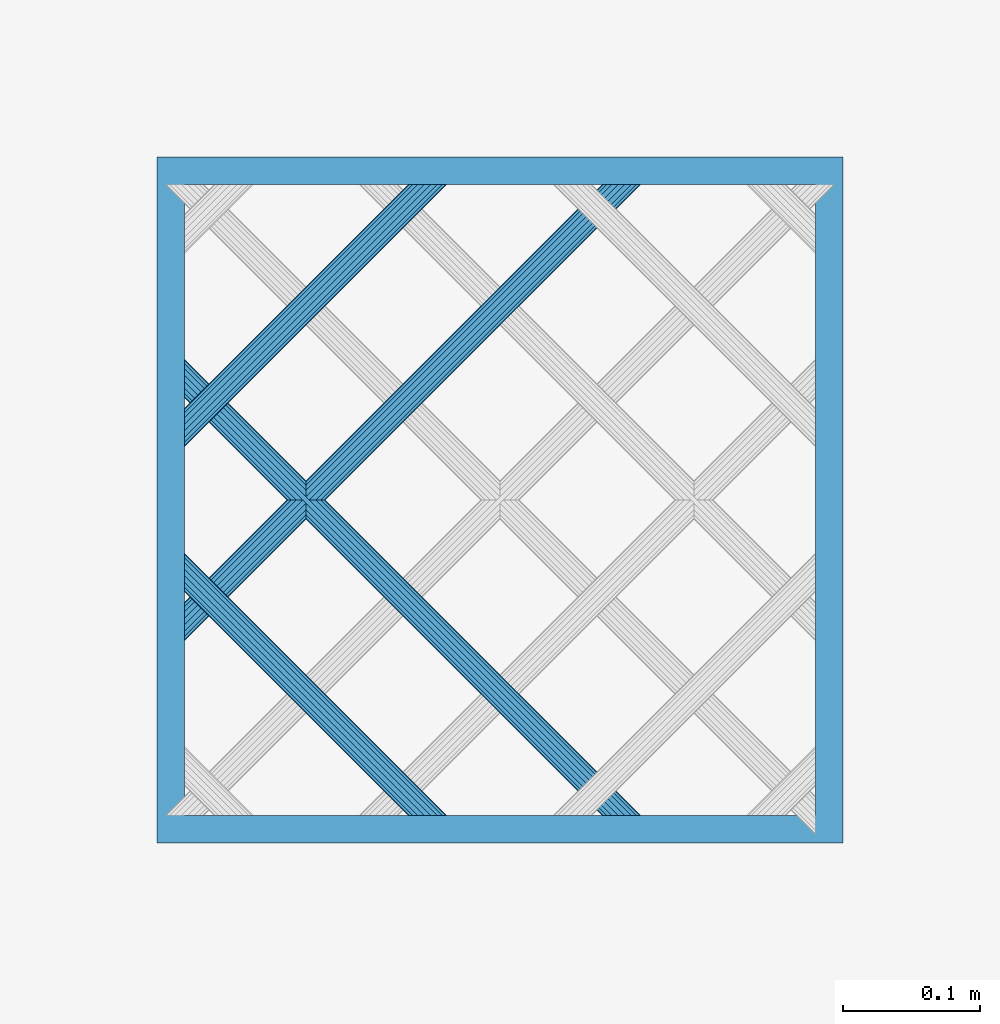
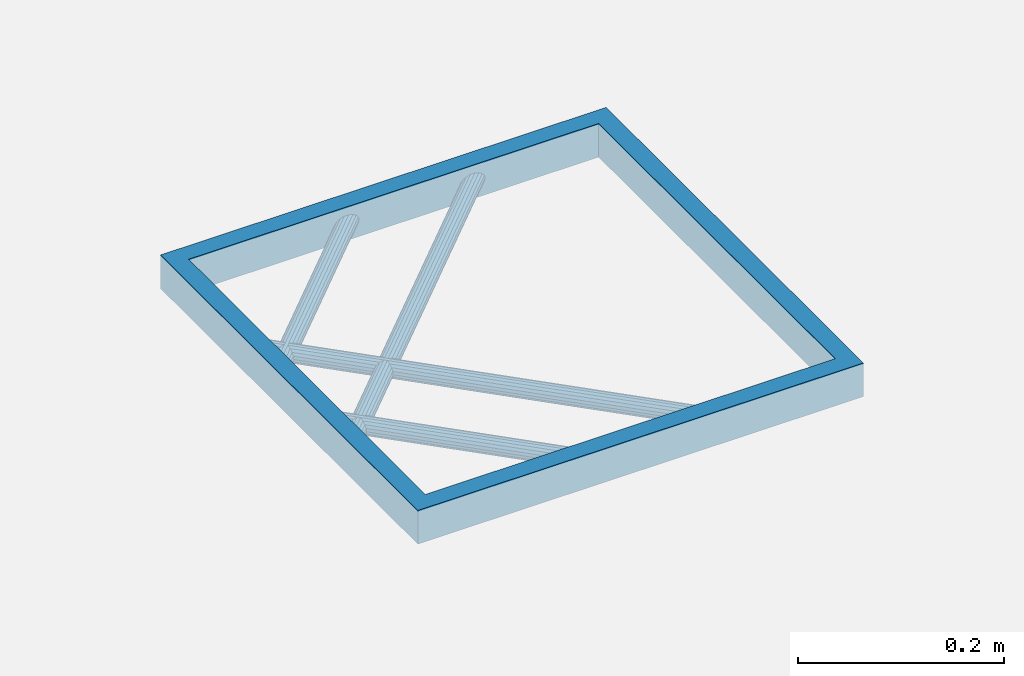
# One storey, part 80 of 133: 5 members, 1 element without a shape of its own.
"""IFC2X3 building model written with IfcOpenShell, lengths in centimetres."""

import ifcopenshell
import ifcopenshell.guid

model = None  # the IFC model being written
_history = None  # IfcOwnerHistory: only IFC2X3 demands one
_inside = {}  # id of a spatial element -> (the spatial element, [elements in it])
_under = {}  # id of a project, library or spatial element -> (it, [spatial elements below it])
_declared = {}  # id of a project -> (the project, [libraries it declares])
_typed = {}  # id of a type object -> (the type object, [elements of that type])
_made_of = {}  # id of a material, layer set ... -> (it, [elements and type objects made of it])


def new_model(schema):
    """Start an empty IFC model of exactly this schema.

    Asked for "IFC4X3", IfcOpenShell would pick the latest addendum, in which some entities
    have other attributes; the version numbers below select the first issue.
    IFC2X3 requires an IfcOwnerHistory on every rooted entity: one is made here for all.
    """
    global model, _history
    if schema == "IFC4X3":
        model = ifcopenshell.file(schema_version=(4, 3, 0, 0))
    else:
        model = ifcopenshell.file(schema=schema)
    _inside.clear()
    _under.clear()
    _declared.clear()
    _typed.clear()
    _made_of.clear()
    _history = None
    if model.schema == "IFC2X3":
        org = make("IfcOrganization", Name="unknown")
        user = make(
            "IfcPersonAndOrganization",
            ThePerson=make("IfcPerson", FamilyName="unknown"),
            TheOrganization=org,
        )
        app = make(
            "IfcApplication",
            ApplicationDeveloper=org,
            Version="unknown",
            ApplicationFullName="unknown",
            ApplicationIdentifier="unknown",
        )
        _history = make(
            "IfcOwnerHistory",
            OwningUser=user,
            OwningApplication=app,
            ChangeAction="ADDED",
            CreationDate=0,
        )
    return model


def make(cls, **values):
    """One entity of the class cls with the attributes given. An attribute that is None is left unset."""
    return model.create_entity(
        cls, **{name: value for name, value in values.items() if value is not None}
    )


def entity(cls, *values):
    """Any entity or typed value of the class cls, its attributes in the order of the schema. None: left unset."""
    e = model.create_entity(cls)
    for i, value in enumerate(values):
        if value is not None:
            e[i] = value
    return e


def rooted(cls, **values):
    """An entity with a GlobalId (a new one), such as an element, a storey or a relation."""
    return make(cls, GlobalId=ifcopenshell.guid.new(), OwnerHistory=_history, **values)


def si_unit(unit_type, name, prefix=None):
    """IfcSIUnit, for example si_unit("LENGTHUNIT", "METRE", prefix="MILLI")."""
    return make("IfcSIUnit", UnitType=unit_type, Prefix=prefix, Name=name)


def converted_unit(unit_type, name, factor, base, dimensions=None, offset=None):
    """IfcConversionBasedUnit, such as the inch: factor (a typed value) times the base unit."""
    return make(
        "IfcConversionBasedUnit"
        if offset is None
        else "IfcConversionBasedUnitWithOffset",
        ConversionOffset=offset,
        Dimensions=None
        if dimensions is None
        else entity("IfcDimensionalExponents", *dimensions),
        UnitType=unit_type,
        Name=name,
        ConversionFactor=make(
            "IfcMeasureWithUnit", ValueComponent=factor, UnitComponent=base
        ),
    )


def assignment(units):
    """IfcUnitAssignment: the units of a project."""
    return None if units is None else make("IfcUnitAssignment", Units=units)


def point(xyz):
    """IfcCartesianPoint."""
    return None if xyz is None else make("IfcCartesianPoint", Coordinates=xyz)


def direction(xyz):
    """IfcDirection."""
    return None if xyz is None else make("IfcDirection", DirectionRatios=xyz)


def frame(location, z_axis=None, x_axis=None):
    """IfcAxis2Placement3D, a coordinate frame: its origin and axes. An axis left out is left unset."""
    return make(
        "IfcAxis2Placement3D",
        Location=point(location),
        Axis=direction(z_axis),
        RefDirection=direction(x_axis),
    )


def origin():
    """The frame at (0, 0, 0) with its axes left unset."""
    return frame((0.0, 0.0, 0.0))


def origin_with_axes():
    """The frame at (0, 0, 0) with the z axis (0, 0, 1) and the x axis (1, 0, 0) written out."""
    return frame((0.0, 0.0, 0.0), z_axis=(0.0, 0.0, 1.0), x_axis=(1.0, 0.0, 0.0))


def place(relative_to, where):
    """IfcLocalPlacement: puts the frame where relative to a parent placement (None: the world)."""
    return make(
        "IfcLocalPlacement", PlacementRelTo=relative_to, RelativePlacement=where
    )


def context(
    kind, dimensions, precision=None, world=None, true_north=None, identifier=None
):
    """IfcGeometricRepresentationContext, for example the 3D "Model" context."""
    return make(
        "IfcGeometricRepresentationContext",
        ContextIdentifier=identifier,
        ContextType=kind,
        CoordinateSpaceDimension=dimensions,
        Precision=precision,
        WorldCoordinateSystem=world,
        TrueNorth=true_north,
    )


def subcontext(parent, identifier, kind, view, scale=None):
    """IfcGeometricRepresentationSubContext, for example "Body" below "Model"."""
    return make(
        "IfcGeometricRepresentationSubContext",
        ContextIdentifier=identifier,
        ContextType=kind,
        ParentContext=parent,
        TargetScale=scale,
        TargetView=view,
    )


def project(units=None, contexts=None):
    """IfcProject with its units and contexts."""
    return rooted(
        "IfcProject",
        Name="project",
        RepresentationContexts=contexts,
        UnitsInContext=assignment(units),
    )


def spatial(cls, under=None, at=None, **own):
    """A site, building, storey or space (cls), placed at a placement, below another one or the project."""
    s = rooted(cls, ObjectPlacement=at, **own)
    if under is not None:
        _under.setdefault(under.id(), (under, []))[1].append(s)
    return s


def faces_of(points, faces, orient=None, outer=None):
    """IfcFace entities. A face is a list of loops; a loop is a list of indices into points, from 0.

    orient and outer hold one flag for each loop. By default every Orientation is true, the
    first loop of a face is its IfcFaceOuterBound and the others are IfcFaceBound.
    """
    made = []
    for i, loops in enumerate(faces):
        bounds = []
        for j, loop in enumerate(loops):
            is_outer = j == 0 if outer is None else outer[i][j]
            bounds.append(
                make(
                    "IfcFaceOuterBound" if is_outer else "IfcFaceBound",
                    Bound=make("IfcPolyLoop", Polygon=[points[k] for k in loop]),
                    Orientation=True if orient is None else orient[i][j],
                )
            )
        made.append(make("IfcFace", Bounds=bounds))
    return made


def faceted_brep(points, faces, orient=None, outer=None, voids=None):
    """IfcFacetedBrep: a solid bounded by flat faces; with voids (closed shells), ...WithVoids."""
    shared = [point(p) for p in points]
    hull = make("IfcClosedShell", CfsFaces=faces_of(shared, faces, orient, outer))
    if voids is None:
        return make("IfcFacetedBrep", Outer=hull)
    return make(
        "IfcFacetedBrepWithVoids",
        Outer=hull,
        Voids=[
            make(cls, CfsFaces=faces_of(shared, fs, o, b)) for cls, fs, o, b in voids
        ],
    )


def shape(context_of_items, identifier, shape_type, items):
    """IfcShapeRepresentation: the items that make up one representation, for example the "Body"."""
    return make(
        "IfcShapeRepresentation",
        ContextOfItems=context_of_items,
        RepresentationIdentifier=identifier,
        RepresentationType=shape_type,
        Items=items,
    )


def material(Name=None, Category=None):
    """IfcMaterial."""
    return make("IfcMaterial", Name=Name, Category=Category)


def made_of(thing, what):
    """Note that an element or type object is made of a material, layer set ...; save() writes the relation."""
    if what is not None:
        _made_of.setdefault(what.id(), (what, []))[1].append(thing)
    return thing


def type_object(cls, material=None, **own):
    """A type object (cls), such as IfcWallType, which elements share."""
    return made_of(rooted(cls, **own), material)


def element(
    cls,
    number,
    at=None,
    inside=None,
    cuts=None,
    type_object=None,
    material=None,
    context=None,
    identifier="Body",
    shape_type=None,
    held_by="IfcProductDefinitionShape",
    body=None,
    shapes=None,
    **own,
):
    """One element of the class cls, such as IfcWall. Its Tag is "e" and its number.

    at: its placement. inside: the storey or other place that contains it. cuts: it is an
    opening in that element (IfcRelVoidsElement). A single representation is given by context,
    identifier, shape_type and body (its items); several are given by shapes. held_by: the class
    of the entity that holds the representations. save() writes the other relations.
    """
    e = rooted(cls, Tag="e%d" % number, ObjectPlacement=at, **own)
    if body is not None:
        shapes = [shape(context, identifier, shape_type, body)]
    if shapes is not None:
        e.Representation = make(held_by, Representations=shapes)
    if inside is not None:
        _inside.setdefault(inside.id(), (inside, []))[1].append(e)
    if cuts is not None:
        rooted(
            "IfcRelVoidsElement", RelatingBuildingElement=cuts, RelatedOpeningElement=e
        )
    if type_object is not None:
        _typed.setdefault(type_object.id(), (type_object, []))[1].append(e)
    return made_of(e, material)


def aggregate(whole, parts):
    """IfcRelAggregates: a whole, such as a stair, and the parts it consists of."""
    return rooted("IfcRelAggregates", RelatingObject=whole, RelatedObjects=parts)


def save(model, path):
    """Write the relations noted so far, then the file.

    IfcRelAggregates (storeys below a building ...), IfcRelContainedInSpatialStructure (elements
    in a storey), IfcRelDefinesByType, IfcRelAssociatesMaterial and IfcRelDeclares: one each for
    every whole, place, type object, material and project.
    """
    for whole, parts in _under.values():
        aggregate(whole, parts)
    for where, things in _inside.values():
        rooted(
            "IfcRelContainedInSpatialStructure",
            RelatedElements=things,
            RelatingStructure=where,
        )
    for kind, things in _typed.values():
        rooted("IfcRelDefinesByType", RelatedObjects=things, RelatingType=kind)
    for what, things in _made_of.values():
        rooted("IfcRelAssociatesMaterial", RelatedObjects=things, RelatingMaterial=what)
    for by, libraries in _declared.values():
        rooted("IfcRelDeclares", RelatingContext=by, RelatedDefinitions=libraries)
    model.write(path)


model = new_model("IFC2X3")

# Units and contexts
model_context = context("Model", 3, precision=0.0001, world=origin(), true_north=direction((0.225632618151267, 0.974212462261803, 0.0)))
body_context = subcontext(model_context, "Body", "Model", "MODEL_VIEW")
ifc_project = project(units=[si_unit("LENGTHUNIT", "METRE", prefix="CENTI"), si_unit("AREAUNIT", "SQUARE_METRE", prefix="CENTI"), si_unit("VOLUMEUNIT", "CUBIC_METRE", prefix="CENTI"), converted_unit("PLANEANGLEUNIT", "DEGREE", entity("IfcRatioMeasure", 0.0174532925), si_unit("PLANEANGLEUNIT", "RADIAN"), dimensions=[0, 0, 0, 0, 0, 0, 0])], contexts=[model_context])

# Site, building, storey
site_placement = place(None, origin_with_axes())
site = spatial("IfcSite", under=ifc_project, at=site_placement, Name="Default Site", CompositionType="ELEMENT")
building_placement = place(site_placement, origin_with_axes())
building = spatial("IfcBuilding", under=site, at=building_placement, Name="Default Building", CompositionType="ELEMENT")
storey_placement = place(building_placement, frame((0.0, 0.0, -291.400371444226), z_axis=(0.0, 0.0, 1.0), x_axis=(1.0, 0.0, 0.0)))
storey = spatial("IfcBuildingStorey", under=building, at=storey_placement, Name="Rez-de-Jardin", CompositionType="ELEMENT", Elevation=-291.400371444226)

# Assembly, members
building_element_proxy_type = type_object("IfcBuildingElementProxyType", Name="Type Object", PredefinedType="NOTDEFINED")
assembly_placement = place(storey_placement, frame((1358.14143246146, 225.4756620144, -2.0), z_axis=(0.0, 1.0, -2.38697950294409e-15), x_axis=(1.0, 0.0, 0.0)))
assembly = element("IfcElementAssembly", 1, at=assembly_placement, inside=storey, type_object=building_element_proxy_type, Name="Panneau 134273", ObjectType="Precast panel", PredefinedType="USERDEFINED")
ifc_material = material(Name="Aluminium satiné")
member_1_placement = place(assembly_placement, frame((1.99999995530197, 1.99999995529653, 47.9999989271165), z_axis=(0.999999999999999, 1.9803584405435e-31, -8.29650375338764e-17), x_axis=(0.0, 1.0, 2.38697950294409e-15)))
member_1 = element("IfcMember", 2, at=member_1_placement, material=ifc_material, Name="4294966702", context=body_context, shape_type="Brep", body=[
    faceted_brep([(-1.87350135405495e-14, -5.55111512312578e-15, -3.81639164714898e-15), (-3.99999991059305, 5.55111512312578e-15, -3.81639164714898e-15), (-3.99999991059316, -45.9999989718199, -3.81639164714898e-15), (-1.28369537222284e-13, -45.9999989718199, -3.81639164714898e-15), (-3.99999991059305, 2.00000107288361, -1.99999995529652), (-3.99999991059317, -47.9999989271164, -1.99999995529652), (-3.99999991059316, -45.9999989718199, 0.0), (-1.38777878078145e-14, 2.0000010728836, -1.99999995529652), (-1.33226762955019e-13, -47.9999989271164, -1.99999995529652), (-1.86517493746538e-14, -5.55111512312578e-15, -3.81639164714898e-15), (-1.28452804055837e-13, -45.9999989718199, -1.6489817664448e-47), (-1.28369537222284e-13, -45.9999989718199, 0.0), (-3.99999991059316, -45.9999989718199, 45.9999989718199), (-1.28369537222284e-13, -45.9999989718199, 45.9999989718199), (-3.99999991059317, -47.9999989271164, 48.0000000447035), (-1.33226762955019e-13, -47.9999989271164, 48.0000000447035), (-1.28452804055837e-13, -45.9999989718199, -1.64898176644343e-47), (-1.28452804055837e-13, -45.9999989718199, 45.9999989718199), (-3.99999991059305, 1.11022302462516e-14, 45.9999989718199), (-1.87350135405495e-14, 0.0, 45.9999989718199), (-3.99999991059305, 2.00000107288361, 48.0000000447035), (-1.38777878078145e-14, 2.0000010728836, 48.0000000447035), (-1.86517493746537e-14, -1.98749857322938e-31, 45.9999989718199), (-1.38777878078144e-14, 2.0000010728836, 48.0000000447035), (-3.99999991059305, 9.54791779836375e-15, 45.9999989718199), (-3.99999991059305, 5.73152615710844e-15, -3.81639164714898e-15), (-1.87350135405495e-14, -3.81639164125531e-15, -3.81639164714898e-15), (-1.38777878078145e-14, 2.00000107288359, -1.99999995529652), (-3.99999991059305, 2.0000010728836, -1.99999995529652), (-1.86517493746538e-14, -1.9874985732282e-31, 45.9999989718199), (-1.38777878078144e-14, 2.0000010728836, -1.99999995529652)], [[[0, 1, 2, 3]], [[1, 4, 5, 6]], [[4, 7, 8, 5]], [[7, 9, 10, 8]], [[11, 6, 12, 13]], [[6, 5, 14, 12]], [[5, 8, 15, 14]], [[8, 16, 17, 15]], [[13, 12, 18, 19]], [[12, 14, 20, 18]], [[14, 15, 21, 20]], [[15, 17, 22, 23]], [[19, 24, 25, 26]], [[18, 20, 4, 1]], [[20, 21, 27, 28]], [[21, 29, 9, 30]]]),
])
member_2_placement = place(assembly_placement, frame((21.0446551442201, 0.342020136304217, 47.9999989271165), z_axis=(1.16937634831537e-15, -1.43218776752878e-15, 1.0), x_axis=(0.632455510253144, -0.774596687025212, -1.84894641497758e-15)))
member_2 = element("IfcMember", 3, at=member_2_placement, material=ifc_material, Name="4294966700", context=body_context, shape_type="Brep", body=[
    faceted_brep([(1.27675647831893e-13, 7.49400541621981e-14, -4.44089209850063e-14), (-0.388289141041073, 7.49400541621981e-14, -4.51268468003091e-14), (-0.799165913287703, -0.150249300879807, -4.58865359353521e-14), (-1.18307196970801, -0.432624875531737, -4.65963576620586e-14), (-1.49370326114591, -0.81306897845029, -4.71706982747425e-14), (-1.6935933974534, -1.24569483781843, -4.75402844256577e-14), (-1.75863166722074, -1.67832007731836, -4.76605367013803e-14), (-1.68097381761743, -2.05876418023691, -4.75169514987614e-14), (-1.46998625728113, -2.34113956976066, -4.71268468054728e-14), (-1.15111848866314, -2.49138921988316, -4.65372773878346e-14), (-0.762829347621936, -2.49138921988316, -4.58193515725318e-14), (-0.351952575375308, -2.34113991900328, -4.50596624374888e-14), (0.031954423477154, -2.05876319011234, -4.43498389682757e-14), (0.342585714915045, -1.67831908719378, -4.37754983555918e-14), (0.542474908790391, -1.24569438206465, -4.34059139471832e-14), (0.607513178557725, -0.813069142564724, -4.32856616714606e-14), (0.529855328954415, -0.43262503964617, -4.34292468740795e-14), (0.318867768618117, -0.150249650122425, -4.38193515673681e-14), (-11.7799694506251, -14.9682393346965, -19.1299408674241), (-11.5150417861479, -15.1845518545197, -19.044652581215), (-11.2820682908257, -15.3747739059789, -18.7990784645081), (-11.109149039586, -15.515961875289, -18.4228330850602), (-11.0171406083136, -15.5910864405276, -17.9613023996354), (-11.0171406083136, -15.5910864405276, -17.4701511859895), (-11.1091490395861, -15.515961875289, -17.0086205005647), (-11.2820682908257, -15.3747739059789, -16.6323781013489), (-11.515041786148, -15.1845518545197, -16.3868010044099), (-11.7799694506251, -14.9682393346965, -16.3015127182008), (-12.0448971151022, -14.7519268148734, -16.3868010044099), (-12.2778706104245, -14.5617047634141, -16.6323781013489), (-12.4507898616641, -14.4205167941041, -17.0086205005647), (-12.5427982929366, -14.3453922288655, -17.4701511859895), (-12.5427982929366, -14.3453922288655, -17.9613023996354), (-12.4507898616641, -14.4205167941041, -18.4228330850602), (-12.2778706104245, -14.5617047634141, -18.7990784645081), (-12.0448971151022, -14.7519268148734, -19.044652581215), (0.318867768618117, -0.150249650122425, -4.44089209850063e-14), (0.529855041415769, -0.432625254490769, 3.48273271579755e-07), (-11.5150410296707, -15.1845512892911, -19.0446534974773), (-11.7799690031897, -14.9682390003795, -19.1299414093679), (0.529855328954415, -0.43262503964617, -4.44089209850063e-14), (0.607513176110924, -0.813069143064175, 1.93432193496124e-09), (-11.2820677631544, -15.3747737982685, -18.7990788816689), (-11.5150405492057, -15.1845516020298, -19.0446535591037), (0.607513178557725, -0.813069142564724, -4.44089209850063e-14), (0.542475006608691, -1.24569439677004, -5.04750248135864e-08), (-11.1091478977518, -15.5159620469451, -18.4228336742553), (-11.2820678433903, -15.3747739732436, -18.7990786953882), (0.542474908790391, -1.24569438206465, -4.44089209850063e-14), (0.342585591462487, -1.67831903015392, 3.38953205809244e-08), (-11.0171401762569, -15.5910866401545, -17.9613025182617), (-11.1091484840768, -15.5159621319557, -18.4228332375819), (0.342585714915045, -1.67831908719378, -4.44089209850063e-14), (0.031954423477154, -2.05876319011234, -4.44089209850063e-14), (-0.351952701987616, -2.34113974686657, -5.32599138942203e-08), (-11.109149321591, -15.515961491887, -17.0086206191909), (-11.0171409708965, -15.5910859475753, -17.4701513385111), (-0.351952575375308, -2.34113991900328, -4.44089209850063e-14), (-0.762829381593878, -2.49138912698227, -5.04750254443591e-08), (-11.2820682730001, -15.3747739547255, -16.6323780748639), (-11.1091491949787, -15.5159614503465, -17.0086207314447), (-0.762829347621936, -2.49138921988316, -4.44089209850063e-14), (-1.15111848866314, -2.49138922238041, 1.93432145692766e-09), (-11.515041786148, -15.1845513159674, -16.3868014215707), (-11.2820682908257, -15.3747740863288, -16.6323779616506), (-1.15111848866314, -2.49138921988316, -4.44089209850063e-14), (-1.46998641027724, -2.34113989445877, 3.48273271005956e-07), (-11.779969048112, -14.9682384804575, -16.3015136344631), (-11.5150415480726, -15.1845513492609, -16.3868015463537), (-1.46998625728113, -2.34113956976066, -4.44089209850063e-14), (-1.68097353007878, -2.05876396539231, -3.48273360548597e-07), (-12.0448963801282, -14.7519262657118, -16.386801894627), (-11.7799684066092, -14.9682385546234, -16.3015139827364), (-1.68097381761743, -2.05876418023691, -4.44089209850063e-14), (-1.75863166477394, -1.67832007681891, -1.93441069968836e-09), (-12.2778707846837, -14.5617047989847, -16.6323779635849), (-12.0448965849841, -14.7519267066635, -16.386801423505), (-1.75863166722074, -1.67832007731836, -4.44089209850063e-14), (-1.6935934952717, -1.24569482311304, 5.04749365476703e-08), (-12.4507895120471, -14.4205168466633, -17.0086206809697), (-12.2778707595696, -14.5617047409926, -16.6323780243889), (-1.6935933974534, -1.24569483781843, -4.44089209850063e-14), (-1.49370345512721, -0.813068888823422, 5.32598251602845e-08), (-12.5427979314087, -14.3453923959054, -17.4701512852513), (-12.4507896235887, -14.4205169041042, -17.0086205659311), (-1.49370326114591, -0.81306897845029, -4.44089209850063e-14), (-1.18307196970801, -0.432624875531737, -4.44089209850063e-14), (-0.79916599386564, -0.150249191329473, -3.38954096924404e-08), (-12.450790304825, -14.4205161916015, -18.4228332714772), (-12.5427986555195, -14.3453917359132, -17.9613025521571), (-0.799165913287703, -0.150249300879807, -4.44089209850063e-14), (-0.388289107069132, -9.29008157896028e-08, 5.047493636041e-08), (-12.2778707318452, -14.5617044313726, -18.7990786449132), (-12.4507902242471, -14.4205158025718, -18.4228336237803), (-0.388289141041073, 7.49400541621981e-14, -4.44089209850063e-14), (1.27649950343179e-13, 2.49733039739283e-09, -1.93441019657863e-09), (-12.0448971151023, -14.7519255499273, -19.0446535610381), (-12.2778706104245, -14.5617042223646, -18.7990788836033), (0.318867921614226, -0.15024932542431, -3.48273360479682e-07), (-11.7799690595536, -14.9682385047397, -19.1299417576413), (-12.044896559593, -14.7519256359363, -19.0446538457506)], [[[0, 1, 2, 3, 4, 5, 6, 7, 8, 9, 10, 11, 12, 13, 14, 15, 16, 17]], [[18, 19, 20, 21, 22, 23, 24, 25, 26, 27, 28, 29, 30, 31, 32, 33, 34, 35]], [[36, 37, 38, 39]], [[40, 41, 42, 43]], [[44, 45, 46, 47]], [[48, 49, 50, 51]], [[52, 53, 23, 22]], [[53, 54, 55, 56]], [[57, 58, 59, 60]], [[61, 62, 63, 64]], [[65, 66, 67, 68]], [[69, 70, 71, 72]], [[73, 74, 75, 76]], [[77, 78, 79, 80]], [[81, 82, 83, 84]], [[85, 86, 32, 31]], [[86, 87, 88, 89]], [[90, 91, 92, 93]], [[94, 95, 96, 97]], [[0, 98, 99, 100]]]),
])
member_3_placement = place(assembly_placement, frame((35.1867914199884, 0.342020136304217, 47.9999989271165), z_axis=(1.16937776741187e-15, -1.43218081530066e-15, 1.0), x_axis=(0.632457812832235, -0.774594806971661, -1.84894192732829e-15)))
member_3 = element("IfcMember", 4, at=member_3_placement, material=ifc_material, Name="4294966699", context=body_context, shape_type="Brep", body=[
    faceted_brep([(-1.02695629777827e-13, 1.66533453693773e-14, 1.66533453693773e-14), (-0.388290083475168, 1.66533453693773e-14, 1.59354195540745e-14), (-0.799166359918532, -0.150246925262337, 1.51757331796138e-14), (-1.18307325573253, -0.432621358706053, 1.44659116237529e-14), (-1.49370567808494, -0.813064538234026, 1.3891570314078e-14), (-1.69359804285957, -1.24569095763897, 1.35219809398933e-14), (-1.75863665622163, -1.6783148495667, 1.34017283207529e-14), (-1.68098087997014, -2.05876033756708, 1.35453093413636e-14), (-1.46999321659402, -2.34113520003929, 1.39354132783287e-14), (-1.15112683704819, -2.49138695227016, 1.45249786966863e-14), (-0.762836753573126, -2.49138695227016, 1.52429045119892e-14), (-0.351960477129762, -2.34114002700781, 1.60025908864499e-14), (0.0319483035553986, -2.05876328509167, 1.67124159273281e-14), (0.342580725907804, -1.6783201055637, 1.7286757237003e-14), (0.542471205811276, -1.24569599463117, 1.76563431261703e-14), (0.607509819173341, -0.813072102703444, 1.77765957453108e-14), (0.529854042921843, -0.432626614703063, 1.76330147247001e-14), (0.318866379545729, -0.150251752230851, 1.7242910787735e-14), (-20.7243185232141, -25.9226296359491, -33.2720771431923), (-20.4593915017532, -26.1389429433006, -33.1867888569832), (-20.2264185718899, -26.3291656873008, -32.9412132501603), (-20.0534997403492, -26.4703541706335, -32.5649693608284), (-19.961491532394, -26.5454790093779, -32.1034386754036), (-19.961491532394, -26.5454790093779, -31.6122874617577), (-20.0534997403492, -26.4703541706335, -31.1507567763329), (-20.2264185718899, -26.3291656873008, -30.7745128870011), (-20.4593915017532, -26.1389429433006, -30.5289372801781), (-20.7243185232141, -25.9226296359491, -30.4436504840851), (-20.9892455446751, -25.7063163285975, -30.5289372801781), (-21.2222184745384, -25.5160935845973, -30.7745128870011), (-21.3951373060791, -25.3749051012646, -31.1507567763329), (-21.4871455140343, -25.2997802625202, -31.6122874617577), (-21.4871455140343, -25.2997802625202, -32.1034386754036), (-21.395137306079, -25.3749051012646, -32.5649693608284), (-21.2222184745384, -25.5160935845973, -32.9412132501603), (-20.9892455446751, -25.7063163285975, -33.1867888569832), (0.318866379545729, -0.150251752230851, 1.66533453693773e-14), (0.529853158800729, -0.432627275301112, 1.07086514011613e-06), (-20.4593913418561, -26.1389428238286, -33.1867890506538), (-20.7243186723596, -25.9226297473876, -33.2720769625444), (0.529854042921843, -0.432626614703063, 1.66533453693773e-14), (0.607510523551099, -0.813071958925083, -5.56859171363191e-07), (-20.2264173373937, -26.3291654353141, -32.9412142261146), (-20.4593902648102, -26.1389426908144, -33.1867898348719), (0.607509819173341, -0.813072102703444, 1.66533453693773e-14), (0.54247070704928, -1.24569591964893, 2.57365082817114e-07), (-20.0534991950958, -26.4703542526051, -32.5649696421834), (-20.2264181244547, -26.3291657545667, -32.9412134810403), (0.542471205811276, -1.24569599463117, 1.66533453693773e-14), (0.342580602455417, -1.67832004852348, 3.38953814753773e-08), (-19.9614911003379, -26.5454792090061, -32.1034387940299), (-20.0534991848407, -26.4703544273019, -32.5649695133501), (0.342580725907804, -1.6783201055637, 1.66533453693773e-14), (0.031948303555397, -2.05876328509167, 1.66533453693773e-14), (0.0319483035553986, -2.05876328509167, 1.66533453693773e-14), (-0.351960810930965, -2.34113957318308, -1.40415087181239e-07), (-20.0535000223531, -26.4703537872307, -31.1507568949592), (-19.9614918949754, -26.5454785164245, -31.6122876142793), (-0.351960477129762, -2.34114002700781, 1.66533453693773e-14), (-0.762836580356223, -2.49138742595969, 2.57365083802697e-07), (-20.2264185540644, -26.3291657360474, -30.774512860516), (-20.0534996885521, -26.4703543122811, -31.1507566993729), (-0.762836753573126, -2.49138695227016, 1.66533453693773e-14), (-1.15112683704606, -2.49138623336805, -5.5685917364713e-07), (-20.4593915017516, -26.1389424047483, -30.5289376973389), (-20.2264185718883, -26.3291651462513, -30.7745133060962), (-1.15112683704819, -2.49138695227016, 1.66533453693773e-14), (-1.46999368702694, -2.34113619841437, 1.07086514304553e-06), (-20.7243187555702, -25.9226301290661, -30.4436499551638), (-20.4593915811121, -26.13894311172, -30.5289370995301), (-1.46999321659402, -2.34113520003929, 1.66533453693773e-14), (-1.68097999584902, -2.05875967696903, -1.07086510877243e-06), (-20.9892448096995, -25.706315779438, -30.5289381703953), (-20.7243180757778, -25.9226293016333, -30.443651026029), (-1.68098087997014, -2.05876033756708, 1.66533453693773e-14), (-1.75863736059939, -1.67831499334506, 5.56859205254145e-07), (-21.2222186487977, -25.5160936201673, -30.774512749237), (-20.9892457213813, -25.706316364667, -30.5289371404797), (-1.75863665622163, -1.6783148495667, 1.66533453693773e-14), (-1.69359754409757, -1.24569103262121, -2.5736504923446e-07), (-21.3951369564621, -25.3749051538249, -31.1507569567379), (-21.2222180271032, -25.5160936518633, -30.7745131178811), (-1.69359804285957, -1.24569095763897, 1.66533453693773e-14), (-1.4937061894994, -0.813064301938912, 1.40415120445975e-07), (-21.4871454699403, -25.2997802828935, -31.6122874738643), (-21.3951373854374, -25.3749050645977, -31.1507567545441), (-1.49370567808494, -0.813064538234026, 1.66533453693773e-14), (-1.18307325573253, -0.432621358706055, 1.66533453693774e-14), (-1.18307325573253, -0.432621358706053, 1.66533453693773e-14), (-0.799166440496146, -0.150246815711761, -3.389534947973e-08), (-21.3951377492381, -25.3749044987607, -32.5649695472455), (-21.4871458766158, -25.2997797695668, -32.1034388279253), (-0.799166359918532, -0.150246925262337, 1.66533453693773e-14), (-0.38829025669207, 4.73689543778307e-07, -2.57365048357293e-07), (-21.2222188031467, -25.5160926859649, -32.9412137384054), (-21.395137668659, -25.3749041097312, -32.5649698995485), (-0.388290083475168, 1.66533453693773e-14, 1.66533453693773e-14), (-2.23232097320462e-12, -7.1890209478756e-07, 5.56859205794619e-07), (-20.9892455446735, -25.7063157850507, -33.1867892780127), (-21.2222184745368, -25.5160930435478, -32.9412136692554), (0.318866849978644, -0.150250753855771, -1.07086510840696e-06), (-20.7243181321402, -25.9226288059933, -33.2720780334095), (-20.9892449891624, -25.706315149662, -33.1867901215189)], [[[0, 1, 2, 3, 4, 5, 6, 7, 8, 9, 10, 11, 12, 13, 14, 15, 16, 17]], [[18, 19, 20, 21, 22, 23, 24, 25, 26, 27, 28, 29, 30, 31, 32, 33, 34, 35]], [[36, 37, 38, 39]], [[40, 41, 42, 43]], [[44, 45, 46, 47]], [[48, 49, 50, 51]], [[52, 53, 23, 22]], [[54, 55, 56, 57]], [[58, 59, 60, 61]], [[62, 63, 64, 65]], [[66, 67, 68, 69]], [[70, 71, 72, 73]], [[74, 75, 76, 77]], [[78, 79, 80, 81]], [[82, 83, 84, 85]], [[86, 87, 32, 31]], [[88, 89, 90, 91]], [[92, 93, 94, 95]], [[96, 97, 98, 99]], [[0, 100, 101, 102]]]),
])
member_4_placement = place(assembly_placement, frame((32.528936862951, 0.342020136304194, 1.99999995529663), z_axis=(1.16937776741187e-15, 1.43218081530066e-15, -1.0), x_axis=(-0.632457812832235, -0.774594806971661, -1.84894192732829e-15)))
member_4 = element("IfcMember", 5, at=member_4_placement, material=ifc_material, Name="4294966690", context=body_context, shape_type="Brep", body=[
    faceted_brep([(-8.88178419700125e-14, -8.60422844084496e-14, 3.7470027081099e-14), (-0.388290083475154, -8.88178419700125e-14, 3.81879528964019e-14), (-0.799166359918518, -0.150246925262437, 3.89476392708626e-14), (-1.18307514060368, -0.432623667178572, 3.96574643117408e-14), (-1.49370756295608, -0.813066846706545, 4.02318056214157e-14), (-1.69359804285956, -1.24569095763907, 4.0601391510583e-14), (-1.75863665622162, -1.6783148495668, 4.07216441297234e-14), (-1.68098087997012, -2.05876033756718, 4.05780631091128e-14), (-1.46999321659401, -2.3411352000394, 4.01879591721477e-14), (-1.15112683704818, -2.49138695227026, 3.959839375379e-14), (-0.762836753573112, -2.49138695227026, 3.88804679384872e-14), (-0.351960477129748, -2.34114002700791, 3.81207815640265e-14), (0.0319464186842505, -2.05876559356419, 3.74109600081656e-14), (0.342578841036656, -1.67832241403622, 3.68366186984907e-14), (0.54247120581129, -1.24569599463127, 3.6467029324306e-14), (0.607509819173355, -0.813072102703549, 3.63467767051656e-14), (0.529854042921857, -0.432626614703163, 3.64903577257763e-14), (0.318866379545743, -0.150251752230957, 3.68804616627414e-14), (19.5731916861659, 23.4312426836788, -30.4436516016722), (19.8381187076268, 23.2149293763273, -30.5289369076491), (20.0710916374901, 23.0247066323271, -30.7745140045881), (20.2440104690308, 22.8835181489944, -31.1507564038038), (20.336018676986, 22.80839331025, -31.6122900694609), (20.336018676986, 22.80839331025, -32.1034412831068), (20.2440104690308, 22.8835181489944, -32.5649719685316), (20.0710916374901, 23.0247066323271, -32.9412143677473), (19.8381187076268, 23.2149293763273, -33.1867914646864), (19.5731916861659, 23.4312426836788, -33.2720767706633), (19.3082646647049, 23.6475559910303, -33.1867914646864), (19.0752917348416, 23.8377787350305, -32.9412143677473), (18.902372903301, 23.9789672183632, -32.5649719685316), (18.8103646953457, 24.0540920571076, -32.1034412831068), (18.8103646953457, 24.0540920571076, -31.6122900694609), (18.902372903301, 23.9789672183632, -31.1507564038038), (19.0752917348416, 23.8377787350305, -30.7745140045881), (19.3082646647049, 23.6475559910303, -30.5289369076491), (0.318866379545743, -0.150251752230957, 3.67761376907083e-14), (0.529853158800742, -0.432627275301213, -1.07086508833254e-06), (19.8381178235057, 23.2149287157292, -30.5289379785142), (0.529854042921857, -0.432626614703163, 3.67761376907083e-14), (0.607510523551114, -0.813071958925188, 5.56859224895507e-07), (20.0710923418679, 23.0247067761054, -30.774513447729), (19.8381187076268, 23.2149293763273, -30.5289369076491), (0.607509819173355, -0.813072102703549, 3.60822483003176e-14), (0.542470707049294, -1.24569591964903, -2.57365029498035e-07), (20.2440099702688, 22.8835182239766, -31.1507566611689), (0.54247120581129, -1.24569599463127, 3.64291929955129e-14), (0.342579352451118, -1.67832265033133, 1.40415140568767e-07), (20.3360191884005, 22.8083930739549, -31.6122899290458), (0.342578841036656, -1.67832241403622, 3.67761376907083e-14), (0.0319464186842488, -2.05876559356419, 3.7470027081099e-14), (0.0319464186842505, -2.05876559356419, 3.7470027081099e-14), (-0.351960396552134, -2.34114013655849, -3.38953281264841e-08), (20.2440105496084, 22.8835180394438, -32.564972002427), (-0.351960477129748, -2.34114002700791, 3.81639164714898e-14), (-0.76283658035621, -2.49138742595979, -2.57365026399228e-07), (20.071091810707, 23.0247061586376, -32.9412146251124), (-0.762836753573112, -2.49138695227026, 3.88578058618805e-14), (-1.15112683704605, -2.49138623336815, 5.568592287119e-07), (19.838118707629, 23.2149300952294, -33.1867909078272), (-1.15112683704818, -2.49138695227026, 3.98986399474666e-14), (-1.46999368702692, -2.34113619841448, -1.0708650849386e-06), (19.5731912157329, 23.4312416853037, -33.2720778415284), (-1.46999321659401, -2.3411352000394, 4.02455846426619e-14), (-1.68097999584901, -2.05875967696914, 1.07086516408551e-06), (19.308265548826, 23.6475566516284, -33.1867903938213), (-1.68098087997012, -2.05876033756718, 4.05925293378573e-14), (-1.75863736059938, -1.67831499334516, -5.56859147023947e-07), (19.0752910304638, 23.8377785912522, -32.9412149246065), (-1.75863665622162, -1.6783148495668, 4.09394740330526e-14), (-1.69359754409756, -1.24569103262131, 2.57365107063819e-07), (18.902373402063, 23.978967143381, -32.5649717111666), (-1.69359804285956, -1.24569095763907, 4.09394740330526e-14), (-1.4937074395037, -0.81306690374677, 3.38954050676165e-08), (18.8103648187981, 24.0540920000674, -32.1034412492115), (-1.49370756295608, -0.813066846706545, 4.02455846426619e-14), (-1.18307514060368, -0.432623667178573, 3.95516952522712e-14), (-1.18307514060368, -0.432623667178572, 3.95516952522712e-14), (-0.799166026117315, -0.150247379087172, -1.40415064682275e-07), (18.9023732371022, 23.9789667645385, -31.1507565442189), (-0.799166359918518, -0.150246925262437, 3.92047505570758e-14), (-0.388290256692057, 4.73689442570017e-07, 2.57365105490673e-07), (19.0752915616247, 23.8377792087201, -30.7745137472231), (-0.388290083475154, -8.88178419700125e-14, 3.81639164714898e-14), (-2.2184431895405e-12, -7.18902198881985e-07, -5.56859152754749e-07), (19.3082646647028, 23.6475552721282, -30.5289374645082), (19.0752917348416, 23.8377787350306, -30.7745140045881), (0.318866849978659, -0.150250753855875, 1.07086516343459e-06), (19.5731921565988, 23.4312436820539, -30.4436505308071), (19.3082646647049, 23.6475559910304, -30.528936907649)], [[[0, 1, 2, 3, 4, 5, 6, 7, 8, 9, 10, 11, 12, 13, 14, 15, 16, 17]], [[18, 19, 20, 21, 22, 23, 24, 25, 26, 27, 28, 29, 30, 31, 32, 33, 34, 35]], [[36, 37, 38, 18]], [[39, 40, 41, 42]], [[43, 44, 45, 20]], [[46, 47, 48, 21]], [[49, 50, 23, 22]], [[51, 52, 53, 23]], [[54, 55, 56, 24]], [[57, 58, 59, 25]], [[60, 61, 62, 26]], [[63, 64, 65, 27]], [[66, 67, 68, 28]], [[69, 70, 71, 29]], [[72, 73, 74, 30]], [[75, 76, 32, 31]], [[77, 78, 79, 32]], [[80, 81, 82, 33]], [[83, 84, 85, 86]], [[0, 87, 88, 89]]]),
])
member_5_placement = place(assembly_placement, frame((18.3868020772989, 0.342020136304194, 1.99999995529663), z_axis=(1.16937634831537e-15, 1.43218776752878e-15, -1.0), x_axis=(-0.632455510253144, -0.774596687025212, -1.84894641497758e-15)))
member_5 = element("IfcMember", 6, at=member_5_placement, material=ifc_material, Name="4294966689", context=body_context, shape_type="Brep", body=[
    faceted_brep([(-4.9960036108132e-14, -3.05311331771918e-14, 2.08166817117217e-14), (-0.388289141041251, -3.05311331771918e-14, 2.15346075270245e-14), (-0.799165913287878, -0.150249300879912, 2.22942966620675e-14), (-1.18307291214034, -0.432626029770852, 2.30041201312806e-14), (-1.49370420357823, -0.813070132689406, 2.35784607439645e-14), (-1.69359339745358, -1.24569483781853, 2.39480451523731e-14), (-1.75863166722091, -1.67832007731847, 2.40682974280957e-14), (-1.6809738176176, -2.05876418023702, 2.39247122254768e-14), (-1.4699862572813, -2.34113956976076, 2.35346075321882e-14), (-1.15111848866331, -2.49138921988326, 2.294503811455e-14), (-0.762829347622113, -2.49138921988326, 2.22271122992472e-14), (-0.351952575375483, -2.34113991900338, 2.14674231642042e-14), (0.0319534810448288, -2.05876434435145, 2.07576014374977e-14), (0.342584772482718, -1.6783202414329, 2.01832608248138e-14), (0.542474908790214, -1.24569438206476, 1.98136746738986e-14), (0.60751317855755, -0.813069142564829, 1.9693422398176e-14), (0.52985532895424, -0.432625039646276, 1.98370076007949e-14), (0.318867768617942, -0.15024965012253, 2.02271122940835e-14), (10.6288509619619, 12.4768501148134, -16.3015153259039), (10.8937786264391, 12.2605375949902, -16.3868021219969), (11.1267521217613, 12.070315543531, -16.6323777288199), (11.299671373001, 11.9291275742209, -17.0086216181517), (11.3916798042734, 11.8540030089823, -17.4701537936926), (11.3916798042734, 11.8540030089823, -17.9613050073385), (11.299671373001, 11.9291275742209, -18.4228356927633), (11.1267521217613, 12.070315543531, -18.7990795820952), (10.8937786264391, 12.2605375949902, -19.0446551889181), (10.6288509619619, 12.4768501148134, -19.1299419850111), (10.3639232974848, 12.6931626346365, -19.0446551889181), (10.1309498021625, 12.8833846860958, -18.7990795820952), (9.95803055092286, 13.0245726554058, -18.4228356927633), (9.86602211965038, 13.0996972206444, -17.9613050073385), (9.86602211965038, 13.0996972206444, -17.4701537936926), (9.95803055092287, 13.0245726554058, -17.0086216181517), (10.1309498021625, 12.8833846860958, -16.6323777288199), (10.3639232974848, 12.6931626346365, -16.3868021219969), (0.318867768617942, -0.15024965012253, 2.04697370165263e-14), (0.529855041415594, -0.432625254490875, -3.48273295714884e-07), (10.8937783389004, 12.2605373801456, -16.3868024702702), (0.52985532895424, -0.432625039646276, 2.0122792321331e-14), (0.607513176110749, -0.81306914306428, -1.93434651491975e-09), (11.1267521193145, 12.0703155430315, -16.6323777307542), (0.60751317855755, -0.813069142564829, 1.97758476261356e-14), (0.542475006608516, -1.24569439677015, 5.04750012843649e-08), (11.2996714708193, 11.9291275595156, -17.0086215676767), (0.542474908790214, -1.24569438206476, 1.97758476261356e-14), (0.342584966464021, -1.67832033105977, 5.32598897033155e-08), (11.3916799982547, 11.8540029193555, -17.4701537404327), (0.342584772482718, -1.6783202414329, 2.04697370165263e-14), (0.0319534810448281, -2.05876434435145, 2.08166817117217e-14), (0.0319534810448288, -2.05876434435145, 2.08166817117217e-14), (-0.351952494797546, -2.34114002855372, -3.38953437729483e-08), (11.2996714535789, 11.9291274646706, -18.4228357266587), (-0.351952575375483, -2.34113991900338, 2.15105711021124e-14), (-0.762829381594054, -2.49138912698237, 5.04750026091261e-08), (11.1267520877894, 12.0703156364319, -18.7990795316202), (-0.762829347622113, -2.49138921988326, 2.22044604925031e-14), (-1.15111848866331, -2.49138922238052, -1.9343430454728e-09), (10.8937786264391, 12.260537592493, -19.0446551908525), (11.1267521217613, 12.070315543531, -18.7990795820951), (-1.15111848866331, -2.49138921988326, 2.32452945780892e-14), (-1.46998641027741, -2.34113989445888, -3.48273292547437e-07), (10.6288508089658, 12.4768497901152, -19.1299423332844), (-1.4699862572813, -2.34113956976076, 2.35922392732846e-14), (-1.68097353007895, -2.05876396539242, 3.4827333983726e-07), (10.3639235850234, 12.6931628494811, -19.0446548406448), (-1.6809738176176, -2.05876418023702, 2.39391839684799e-14), (-1.75863166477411, -1.67832007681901, 1.93439036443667e-09), (10.1309498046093, 12.8833846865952, -18.7990795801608), (-1.75863166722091, -1.67832007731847, 2.42861286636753e-14), (-1.69359349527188, -1.24569482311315, -5.04749560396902e-08), (9.95803045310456, 13.0245726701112, -18.4228357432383), (-1.69359339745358, -1.24569483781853, 2.42861286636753e-14), (-1.49370408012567, -0.813070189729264, 3.38953885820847e-08), (9.86602224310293, 13.0996971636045, -17.9613049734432), (9.95803055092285, 13.0245726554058, -18.4228356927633), (-1.49370420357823, -0.813070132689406, 2.35922392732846e-14), (-1.18307291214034, -0.432626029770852, 2.32452945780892e-14), (-0.79916578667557, -0.150249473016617, -5.32598469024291e-08), (9.95803067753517, 13.0245724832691, -17.0086216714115), (-0.799165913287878, -0.150249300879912, 2.25514051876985e-14), (-0.38828910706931, -9.29009217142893e-08, -5.04749591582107e-08), (10.1309498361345, 12.8833845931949, -16.6323777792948), (9.95803055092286, 13.0245726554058, -17.0086216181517), (-0.388289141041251, -3.05311331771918e-14, 2.18575157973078e-14), (-4.99857336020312e-14, 2.49722543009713e-09, 1.93438699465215e-09), (10.3639232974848, 12.6931626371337, -16.3868021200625), (10.1309498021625, 12.8833846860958, -16.6323777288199), (0.318867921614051, -0.150249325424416, 3.48273336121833e-07), (10.628851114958, 12.4768504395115, -16.3015149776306)], [[[0, 1, 2, 3, 4, 5, 6, 7, 8, 9, 10, 11, 12, 13, 14, 15, 16, 17]], [[18, 19, 20, 21, 22, 23, 24, 25, 26, 27, 28, 29, 30, 31, 32, 33, 34, 35]], [[36, 37, 38, 18]], [[39, 40, 41, 19]], [[42, 43, 44, 20]], [[45, 46, 47, 21]], [[48, 49, 23, 22]], [[50, 51, 52, 23]], [[53, 54, 55, 24]], [[56, 57, 58, 59]], [[60, 61, 62, 26]], [[63, 64, 65, 27]], [[66, 67, 68, 28]], [[69, 70, 71, 29]], [[72, 73, 74, 75]], [[76, 77, 32, 31]], [[77, 78, 79, 32]], [[80, 81, 82, 83]], [[84, 85, 86, 87]], [[0, 88, 89, 35]]]),
])
aggregate(assembly, [member_1, member_2, member_3, member_4, member_5])

save(model, "model.ifc")
